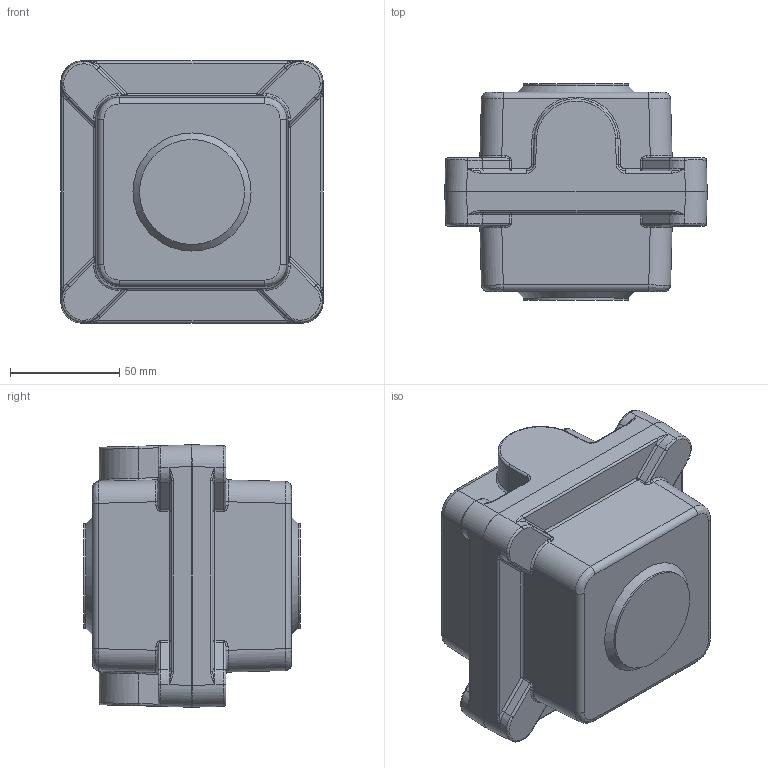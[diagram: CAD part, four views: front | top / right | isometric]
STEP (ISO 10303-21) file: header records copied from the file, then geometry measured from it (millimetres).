
FILE_DESCRIPTION(('STEP AP203'), '1');
FILE_NAME('栖闉罻_扻豵鵨 珃1-01', '', ('UNSPECIFIED'), ('UNSPECIFIED'), 'C3D Converter', 'C3D Toolkit', '');
FILE_SCHEMA(('CONFIG_CONTROL_DESIGN'));
Length unit declared in the file: millimetre
Products named in the file (3): ПУ1-01 (РЧЗ); ПУ1-02 (РЧЗ)
Assembly tree (2 placements, depth 2):
  (unnamed)
    ПУ1-01 (РЧЗ)
    ПУ1-02 (РЧЗ)
Bounding box: 120 x 99 x 120 mm (x, y, z)
Volume: 510148.2 mm3; surface area: 109096.7 mm2
Topology: 2 solids, 2 shells, 431 faces, 994 edges, 554 vertices
Faces by surface type: cylinder 167, bspline 121, plane 96, torus 30, cone 17
Full cylindrical faces by diameter (mm): 48 x2
Entity records: 35677 total; most frequent: CARTESIAN_POINT 23432, ORIENTED_EDGE 1946, DIRECTION 1520, EDGE_CURVE 973, AXIS2_PLACEMENT_3D 571, VERTEX_POINT 554, EDGE_LOOP 439, COLOUR_RGB 433
